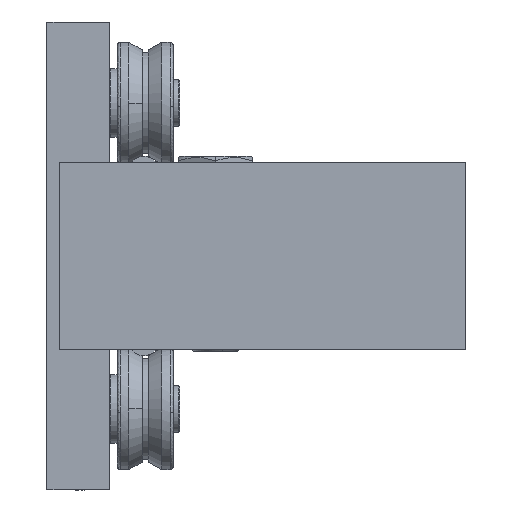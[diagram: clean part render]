
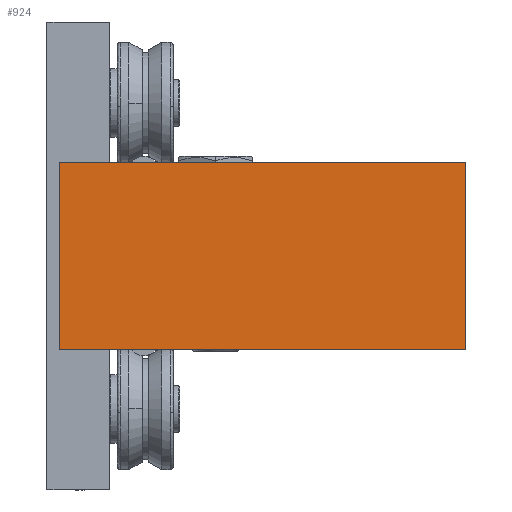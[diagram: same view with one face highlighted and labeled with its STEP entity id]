
A CAD part, left-side view. The second image highlights one B-rep face of the part: STEP entity #924.
In plain terms, the highlighted planar face has unit normal (-1, 0, 0).
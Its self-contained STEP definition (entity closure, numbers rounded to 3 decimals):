
#924 = ADVANCED_FACE ( 'NONE', ( #11525 ), #22233, .T. ) ;
#1173 = DIRECTION ( 'NONE',  ( -1., 0., 0. ) ) ;
#1837 = EDGE_CURVE ( 'NONE', #20031, #3300, #11461, .T. ) ;
#3211 = LINE ( 'NONE', #7535, #22717 ) ;
#3228 = DIRECTION ( 'NONE',  ( 0., -1., 0. ) ) ;
#3300 = VERTEX_POINT ( 'NONE', #10702 ) ;
#7535 = CARTESIAN_POINT ( 'NONE',  ( 0., 130., 0. ) ) ;
#8120 = CARTESIAN_POINT ( 'NONE',  ( 0., 0., 0. ) ) ;
#9247 = ORIENTED_EDGE ( 'NONE', *, *, #12545, .T. ) ;
#10702 = CARTESIAN_POINT ( 'NONE',  ( 0., 0., -30. ) ) ;
#11461 = LINE ( 'NONE', #24947, #13684 ) ;
#11525 = FACE_OUTER_BOUND ( 'NONE', #25604, .T. ) ;
#11832 = LINE ( 'NONE', #22243, #28430 ) ;
#12367 = DIRECTION ( 'NONE',  ( 0., 0., -1. ) ) ;
#12418 = CARTESIAN_POINT ( 'NONE',  ( 0., 65., 30. ) ) ;
#12515 = ORIENTED_EDGE ( 'NONE', *, *, #1837, .F. ) ;
#12523 = DIRECTION ( 'NONE',  ( 0., -1., 0. ) ) ;
#12545 = EDGE_CURVE ( 'NONE', #24796, #30319, #3211, .T. ) ;
#13684 = VECTOR ( 'NONE', #15998, 1000. ) ;
#14520 = ORIENTED_EDGE ( 'NONE', *, *, #20479, .F. ) ;
#15679 = CARTESIAN_POINT ( 'NONE',  ( 0., 130., -30. ) ) ;
#15998 = DIRECTION ( 'NONE',  ( 0., 0., -1. ) ) ;
#18008 = LINE ( 'NONE', #12418, #27205 ) ;
#20031 = VERTEX_POINT ( 'NONE', #27266 ) ;
#20479 = EDGE_CURVE ( 'NONE', #24796, #20031, #18008, .T. ) ;
#22233 = PLANE ( 'NONE',  #30416 ) ;
#22243 = CARTESIAN_POINT ( 'NONE',  ( 0., 0., -30. ) ) ;
#22329 = DIRECTION ( 'NONE',  ( 0., 0., 1. ) ) ;
#22717 = VECTOR ( 'NONE', #12367, 1000. ) ;
#24796 = VERTEX_POINT ( 'NONE', #26986 ) ;
#24947 = CARTESIAN_POINT ( 'NONE',  ( 0., 0., 0. ) ) ;
#25087 = EDGE_CURVE ( 'NONE', #30319, #3300, #11832, .T. ) ;
#25604 = EDGE_LOOP ( 'NONE', ( #12515, #14520, #9247, #29053 ) ) ;
#26986 = CARTESIAN_POINT ( 'NONE',  ( 0., 130., 30. ) ) ;
#27205 = VECTOR ( 'NONE', #12523, 1000. ) ;
#27266 = CARTESIAN_POINT ( 'NONE',  ( 0., 0., 30. ) ) ;
#28430 = VECTOR ( 'NONE', #3228, 1000. ) ;
#29053 = ORIENTED_EDGE ( 'NONE', *, *, #25087, .T. ) ;
#30319 = VERTEX_POINT ( 'NONE', #15679 ) ;
#30416 = AXIS2_PLACEMENT_3D ( 'NONE', #8120, #1173, #22329 ) ;
